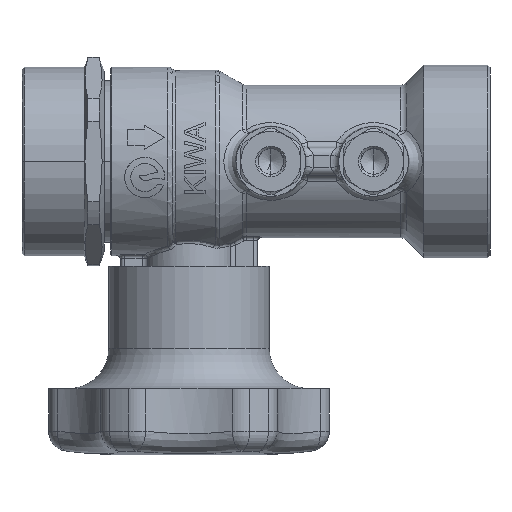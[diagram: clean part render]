
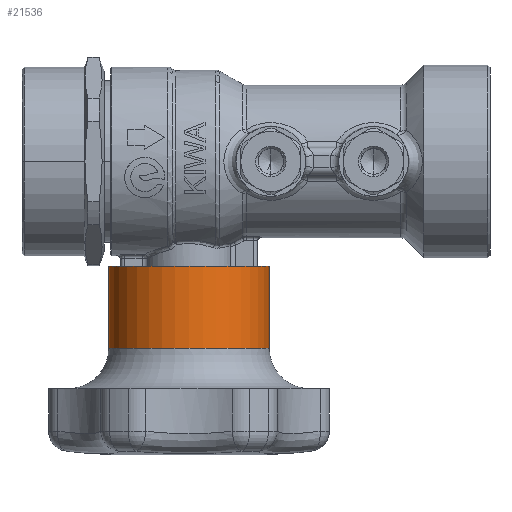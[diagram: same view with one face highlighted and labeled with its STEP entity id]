
A CAD part, front view. The second image highlights one B-rep face of the part: STEP entity #21536.
In plain terms, the highlighted cylindrical face has radius 20 mm (diameter 40 mm), a partial arc.
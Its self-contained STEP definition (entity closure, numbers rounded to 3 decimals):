
#918 = CARTESIAN_POINT ( 'NONE',  ( 0., -21.4, -20. ) ) ;
#1619 = VERTEX_POINT ( 'NONE', #41688 ) ;
#2651 = ORIENTED_EDGE ( 'NONE', *, *, #33675, .F. ) ;
#2960 = ORIENTED_EDGE ( 'NONE', *, *, #51482, .T. ) ;
#3450 = LINE ( 'NONE', #31047, #16099 ) ;
#7776 = CARTESIAN_POINT ( 'NONE',  ( 0., 0., -20. ) ) ;
#11857 = CARTESIAN_POINT ( 'NONE',  ( 0., -0.9, 0. ) ) ;
#13594 = VECTOR ( 'NONE', #23282, 1000. ) ;
#13898 = EDGE_CURVE ( 'NONE', #32132, #1619, #15760, .T. ) ;
#15760 = CIRCLE ( 'NONE', #35942, 20. ) ;
#16099 = VECTOR ( 'NONE', #43528, 1000. ) ;
#18690 = ORIENTED_EDGE ( 'NONE', *, *, #48309, .F. ) ;
#19725 = DIRECTION ( 'NONE',  ( 0., -1., 0. ) ) ;
#20144 = CARTESIAN_POINT ( 'NONE',  ( 0., -0.9, 20. ) ) ;
#21536 = ADVANCED_FACE ( 'NONE', ( #44904 ), #32181, .T. ) ;
#23282 = DIRECTION ( 'NONE',  ( 0., -1., 0. ) ) ;
#25571 = CIRCLE ( 'NONE', #35323, 20. ) ;
#27826 = DIRECTION ( 'NONE',  ( 0., -1., 0. ) ) ;
#31047 = CARTESIAN_POINT ( 'NONE',  ( 0., 0., 20. ) ) ;
#32049 = CARTESIAN_POINT ( 'NONE',  ( 0., 0., 0. ) ) ;
#32132 = VERTEX_POINT ( 'NONE', #20144 ) ;
#32177 = DIRECTION ( 'NONE',  ( 0., 0., -1. ) ) ;
#32181 = CYLINDRICAL_SURFACE ( 'NONE', #50561, 20. ) ;
#33675 = EDGE_CURVE ( 'NONE', #32132, #42211, #3450, .T. ) ;
#35323 = AXIS2_PLACEMENT_3D ( 'NONE', #52561, #27826, #48482 ) ;
#35942 = AXIS2_PLACEMENT_3D ( 'NONE', #11857, #19725, #32177 ) ;
#36169 = VERTEX_POINT ( 'NONE', #918 ) ;
#40111 = CARTESIAN_POINT ( 'NONE',  ( 0., -21.4, 20. ) ) ;
#41688 = CARTESIAN_POINT ( 'NONE',  ( 0., -0.9, -20. ) ) ;
#42211 = VERTEX_POINT ( 'NONE', #40111 ) ;
#43528 = DIRECTION ( 'NONE',  ( 0., -1., 0. ) ) ;
#43551 = LINE ( 'NONE', #7776, #13594 ) ;
#44904 = FACE_OUTER_BOUND ( 'NONE', #48634, .T. ) ;
#47628 = ORIENTED_EDGE ( 'NONE', *, *, #13898, .T. ) ;
#48309 = EDGE_CURVE ( 'NONE', #42211, #36169, #25571, .T. ) ;
#48482 = DIRECTION ( 'NONE',  ( 0., 0., -1. ) ) ;
#48634 = EDGE_LOOP ( 'NONE', ( #2651, #47628, #2960, #18690 ) ) ;
#50561 = AXIS2_PLACEMENT_3D ( 'NONE', #32049, #52501, #52326 ) ;
#51482 = EDGE_CURVE ( 'NONE', #1619, #36169, #43551, .T. ) ;
#52326 = DIRECTION ( 'NONE',  ( 0., 0., -1. ) ) ;
#52501 = DIRECTION ( 'NONE',  ( 0., -1., 0. ) ) ;
#52561 = CARTESIAN_POINT ( 'NONE',  ( 0., -21.4, 0. ) ) ;
